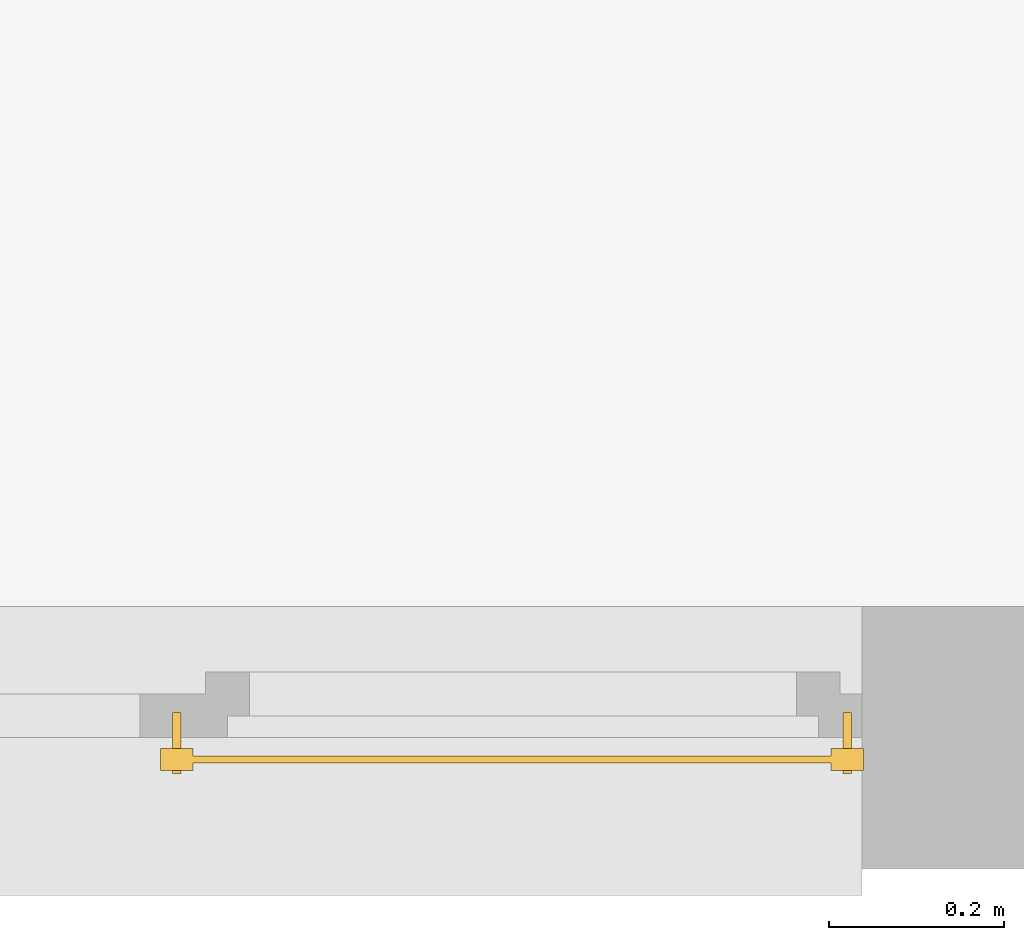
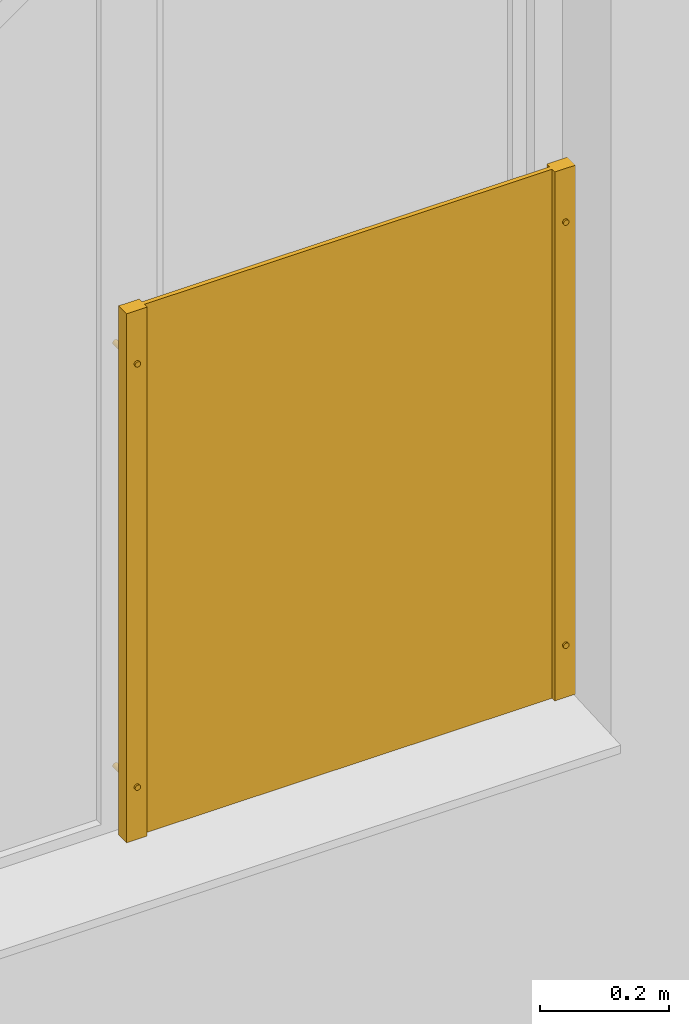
# One storey, part 3 of 8: 1 railing.
"""IFC2X3 building model written with IfcOpenShell, lengths in millimetres."""

from ifc_helpers import new_model, entity, si_unit, converted_unit, derived_unit, money_unit, direction, frame, origin_with_axes, place, context, subcontext, project, spatial, faceted_brep, material, material_list, type_object, element, save


model = new_model("IFC2X3")

# Units and contexts
model_context = context("Model", 3, precision=1e-05, world=origin_with_axes(), true_north=direction((0.0, 1.0)))
body_context = subcontext(model_context, "Body", "Model", "MODEL_VIEW")
ifc_project = project(units=[si_unit("LENGTHUNIT", "METRE", prefix="MILLI"), si_unit("AREAUNIT", "SQUARE_METRE"), si_unit("VOLUMEUNIT", "CUBIC_METRE"), converted_unit("PLANEANGLEUNIT", "DEGREE", entity("IfcPlaneAngleMeasure", 0.0174532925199), si_unit("PLANEANGLEUNIT", "RADIAN"), dimensions=[0, 0, 0, 0, 0, 0, 0]), si_unit("SOLIDANGLEUNIT", "STERADIAN"), money_unit("USD"), converted_unit("TIMEUNIT", "Year", entity("IfcTimeMeasure", 31556926.0), si_unit("TIMEUNIT", "SECOND"), dimensions=[0, 0, 1, 0, 0, 0, 0]), si_unit("MASSUNIT", "GRAM", prefix="KILO"), si_unit("THERMODYNAMICTEMPERATUREUNIT", "DEGREE_CELSIUS"), si_unit("LUMINOUSINTENSITYUNIT", "LUMEN"), si_unit("ENERGYUNIT", "JOULE", prefix="MEGA"), derived_unit("THERMALCONDUCTANCEUNIT", [(si_unit("POWERUNIT", "WATT"), 1), (si_unit("LENGTHUNIT", "METRE"), -1), (si_unit("THERMODYNAMICTEMPERATUREUNIT", "KELVIN"), -1)]), derived_unit("SPECIFICHEATCAPACITYUNIT", [(si_unit("ENERGYUNIT", "JOULE"), 1), (si_unit("MASSUNIT", "GRAM", prefix="KILO"), -1), (si_unit("THERMODYNAMICTEMPERATUREUNIT", "KELVIN"), -1)]), derived_unit("MASSDENSITYUNIT", [(si_unit("MASSUNIT", "GRAM", prefix="KILO"), 1), (si_unit("VOLUMEUNIT", "CUBIC_METRE"), -1)])], contexts=[model_context])

# Site, building, storey
site_placement = place(None, origin_with_axes())
site = spatial("IfcSite", under=ifc_project, at=site_placement, Name="Site", CompositionType="ELEMENT")
building_placement = place(site_placement, origin_with_axes())
building = spatial("IfcBuilding", under=site, at=building_placement, Name="Building", CompositionType="ELEMENT")
storey_placement = place(building_placement, origin_with_axes())
storey = spatial("IfcBuildingStorey", under=building, at=storey_placement, Name="Ground Floor", CompositionType="ELEMENT", Elevation=0.0)

# Railing
ifc_material_1 = material(Name="Steel - Structural")
ifc_material_2 = material(Name="Aluminium")
ifc_material_list = material_list([ifc_material_1, ifc_material_1, ifc_material_2, ifc_material_2, ifc_material_2, ifc_material_2, ifc_material_2])
railing_type = type_object("IfcRailingType", Name="Railing Type", PredefinedType="NOTDEFINED")
railing_placement = place(storey_placement, frame((-25961.9113682, 1857.32727174, 530.0), z_axis=(0.0, 0.0, 1.0), x_axis=(0.0, 1.0, 0.0)))
element("IfcRailing", 1, at=railing_placement, inside=storey, type_object=railing_type, material=ifc_material_list, Name="F-Line GOTLAND 1,0m", PredefinedType="NOTDEFINED", context=body_context, shape_type="Brep", body=[
    faceted_brep([(-12.5, 35.5, 0.0), (-37.5, 35.5, 0.0), (-37.5, 35.5, 1000.0), (-12.5, 35.5, 1000.0), (-12.5, -1.5, 0.0), (-37.5, -1.5, 0.0), (-37.5, -1.5, 1000.0), (-12.5, -1.5, 1000.0)], [[[0, 1, 2, 3]], [[0, 4, 5, 1]], [[1, 5, 6, 2]], [[3, 2, 6, 7]], [[4, 0, 3, 7]], [[5, 4, 7, 6]]]),
    faceted_brep([(-12.5, 801.5, 0.0), (-37.5, 801.5, 0.0), (-37.5, 801.5, 1000.0), (-12.5, 801.5, 1000.0), (-12.5, 764.5, 0.0), (-37.5, 764.5, 0.0), (-37.5, 764.5, 1000.0), (-12.5, 764.5, 1000.0)], [[[0, 1, 2, 3]], [[0, 4, 5, 1]], [[1, 5, 6, 2]], [[3, 2, 6, 7]], [[4, 0, 3, 7]], [[5, 4, 7, 6]]]),
    faceted_brep([(-29.0, 783.0, 0.0), (-29.0, 17.0, 0.0), (-29.0, 17.0, 1000.0), (-29.0, 783.0, 1000.0), (-21.0, 17.0, 0.0), (-21.0, 783.0, 0.0), (-21.0, 17.0, 1000.0), (-21.0, 783.0, 1000.0)], [[[0, 1, 2, 3]], [[4, 1, 0, 5]], [[6, 2, 1, 4]], [[3, 2, 6, 7]], [[0, 3, 7, 5]], [[6, 4, 5, 7]]]),
    faceted_brep([(-41.0, 21.9240387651, 100.868240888), (29.0, 21.9240387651, 100.868240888), (29.0, 21.9240387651, 99.1317591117), (-41.0, 21.9240387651, 99.1317591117), (-41.0, 21.6984631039, 101.710100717), (29.0, 21.6984631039, 101.710100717), (29.0, 21.3301270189, 102.5), (29.0, 20.8302222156, 103.213938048), (29.0, 20.2139380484, 103.830222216), (29.0, 19.5, 104.330127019), (29.0, 18.7101007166, 104.698463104), (29.0, 17.8682408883, 104.924038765), (29.0, 17.0, 105.0), (29.0, 16.1317591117, 104.924038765), (29.0, 15.2898992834, 104.698463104), (29.0, 14.5, 104.330127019), (29.0, 13.7860619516, 103.830222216), (29.0, 13.1697777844, 103.213938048), (29.0, 12.6698729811, 102.5), (29.0, 12.3015368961, 101.710100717), (29.0, 12.0759612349, 100.868240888), (29.0, 12.0, 100.0), (29.0, 12.0759612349, 99.1317591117), (29.0, 12.3015368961, 98.2898992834), (29.0, 12.6698729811, 97.5), (29.0, 13.1697777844, 96.7860619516), (29.0, 13.7860619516, 96.1697777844), (29.0, 14.5, 95.6698729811), (29.0, 15.2898992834, 95.3015368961), (29.0, 16.1317591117, 95.0759612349), (29.0, 17.0, 95.0), (29.0, 17.8682408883, 95.0759612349), (29.0, 18.7101007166, 95.3015368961), (29.0, 19.5, 95.6698729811), (29.0, 20.2139380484, 96.1697777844), (29.0, 20.8302222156, 96.7860619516), (29.0, 21.3301270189, 97.5), (29.0, 21.6984631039, 98.2898992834), (-41.0, 21.6984631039, 98.2898992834), (-41.0, 21.3301270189, 97.5), (-41.0, 20.8302222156, 96.7860619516), (-41.0, 20.2139380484, 96.1697777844), (-41.0, 19.5, 95.6698729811), (-41.0, 18.7101007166, 95.3015368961), (-41.0, 17.8682408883, 95.0759612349), (-41.0, 17.0, 95.0), (-41.0, 16.1317591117, 95.0759612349), (-41.0, 15.2898992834, 95.3015368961), (-41.0, 14.5, 95.6698729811), (-41.0, 13.7860619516, 96.1697777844), (-41.0, 13.1697777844, 96.7860619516), (-41.0, 12.6698729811, 97.5), (-41.0, 12.3015368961, 98.2898992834), (-41.0, 12.0759612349, 99.1317591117), (-41.0, 12.0, 100.0), (-41.0, 12.0759612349, 100.868240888), (-41.0, 12.3015368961, 101.710100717), (-41.0, 12.6698729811, 102.5), (-41.0, 13.1697777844, 103.213938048), (-41.0, 13.7860619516, 103.830222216), (-41.0, 14.5, 104.330127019), (-41.0, 15.2898992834, 104.698463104), (-41.0, 16.1317591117, 104.924038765), (-41.0, 17.0, 105.0), (-41.0, 17.8682408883, 104.924038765), (-41.0, 18.7101007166, 104.698463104), (-41.0, 19.5, 104.330127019), (-41.0, 20.2139380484, 103.830222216), (-41.0, 20.8302222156, 103.213938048), (-41.0, 21.3301270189, 102.5)], [[[0, 1, 2, 3]], [[4, 5, 1, 0]], [[1, 5, 6, 7, 8, 9, 10, 11, 12, 13, 14, 15, 16, 17, 18, 19, 20, 21, 22, 23, 24, 25, 26, 27, 28, 29, 30, 31, 32, 33, 34, 35, 36, 37, 2]], [[3, 2, 37, 38]], [[0, 3, 38, 39, 40, 41, 42, 43, 44, 45, 46, 47, 48, 49, 50, 51, 52, 53, 54, 55, 56, 57, 58, 59, 60, 61, 62, 63, 64, 65, 66, 67, 68, 69, 4]], [[69, 6, 5, 4]], [[68, 7, 6, 69]], [[67, 8, 7, 68]], [[66, 9, 8, 67]], [[65, 10, 9, 66]], [[64, 11, 10, 65]], [[63, 12, 11, 64]], [[62, 13, 12, 63]], [[61, 14, 13, 62]], [[60, 15, 14, 61]], [[59, 16, 15, 60]], [[58, 17, 16, 59]], [[57, 18, 17, 58]], [[56, 19, 18, 57]], [[55, 20, 19, 56]], [[54, 21, 20, 55]], [[53, 22, 21, 54]], [[52, 23, 22, 53]], [[51, 24, 23, 52]], [[50, 25, 24, 51]], [[49, 26, 25, 50]], [[48, 27, 26, 49]], [[47, 28, 27, 48]], [[46, 29, 28, 47]], [[45, 30, 29, 46]], [[44, 31, 30, 45]], [[43, 32, 31, 44]], [[42, 33, 32, 43]], [[41, 34, 33, 42]], [[40, 35, 34, 41]], [[39, 36, 35, 40]], [[38, 37, 36, 39]]]),
    faceted_brep([(-41.0, 21.9240387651, 900.868240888), (29.0, 21.9240387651, 900.868240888), (29.0, 21.9240387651, 899.131759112), (-41.0, 21.9240387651, 899.131759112), (-41.0, 21.6984631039, 901.710100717), (29.0, 21.6984631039, 901.710100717), (29.0, 21.3301270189, 902.5), (29.0, 20.8302222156, 903.213938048), (29.0, 20.2139380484, 903.830222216), (29.0, 19.5, 904.330127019), (29.0, 18.7101007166, 904.698463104), (29.0, 17.8682408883, 904.924038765), (29.0, 17.0, 905.0), (29.0, 16.1317591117, 904.924038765), (29.0, 15.2898992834, 904.698463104), (29.0, 14.5, 904.330127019), (29.0, 13.7860619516, 903.830222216), (29.0, 13.1697777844, 903.213938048), (29.0, 12.6698729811, 902.5), (29.0, 12.3015368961, 901.710100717), (29.0, 12.0759612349, 900.868240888), (29.0, 12.0, 900.0), (29.0, 12.0759612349, 899.131759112), (29.0, 12.3015368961, 898.289899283), (29.0, 12.6698729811, 897.5), (29.0, 13.1697777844, 896.786061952), (29.0, 13.7860619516, 896.169777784), (29.0, 14.5, 895.669872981), (29.0, 15.2898992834, 895.301536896), (29.0, 16.1317591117, 895.075961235), (29.0, 17.0, 895.0), (29.0, 17.8682408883, 895.075961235), (29.0, 18.7101007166, 895.301536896), (29.0, 19.5, 895.669872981), (29.0, 20.2139380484, 896.169777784), (29.0, 20.8302222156, 896.786061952), (29.0, 21.3301270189, 897.5), (29.0, 21.6984631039, 898.289899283), (-41.0, 21.6984631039, 898.289899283), (-41.0, 21.3301270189, 897.5), (-41.0, 20.8302222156, 896.786061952), (-41.0, 20.2139380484, 896.169777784), (-41.0, 19.5, 895.669872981), (-41.0, 18.7101007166, 895.301536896), (-41.0, 17.8682408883, 895.075961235), (-41.0, 17.0, 895.0), (-41.0, 16.1317591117, 895.075961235), (-41.0, 15.2898992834, 895.301536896), (-41.0, 14.5, 895.669872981), (-41.0, 13.7860619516, 896.169777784), (-41.0, 13.1697777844, 896.786061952), (-41.0, 12.6698729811, 897.5), (-41.0, 12.3015368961, 898.289899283), (-41.0, 12.0759612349, 899.131759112), (-41.0, 12.0, 900.0), (-41.0, 12.0759612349, 900.868240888), (-41.0, 12.3015368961, 901.710100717), (-41.0, 12.6698729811, 902.5), (-41.0, 13.1697777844, 903.213938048), (-41.0, 13.7860619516, 903.830222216), (-41.0, 14.5, 904.330127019), (-41.0, 15.2898992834, 904.698463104), (-41.0, 16.1317591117, 904.924038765), (-41.0, 17.0, 905.0), (-41.0, 17.8682408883, 904.924038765), (-41.0, 18.7101007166, 904.698463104), (-41.0, 19.5, 904.330127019), (-41.0, 20.2139380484, 903.830222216), (-41.0, 20.8302222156, 903.213938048), (-41.0, 21.3301270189, 902.5)], [[[0, 1, 2, 3]], [[4, 5, 1, 0]], [[1, 5, 6, 7, 8, 9, 10, 11, 12, 13, 14, 15, 16, 17, 18, 19, 20, 21, 22, 23, 24, 25, 26, 27, 28, 29, 30, 31, 32, 33, 34, 35, 36, 37, 2]], [[3, 2, 37, 38]], [[0, 3, 38, 39, 40, 41, 42, 43, 44, 45, 46, 47, 48, 49, 50, 51, 52, 53, 54, 55, 56, 57, 58, 59, 60, 61, 62, 63, 64, 65, 66, 67, 68, 69, 4]], [[69, 6, 5, 4]], [[68, 7, 6, 69]], [[67, 8, 7, 68]], [[66, 9, 8, 67]], [[65, 10, 9, 66]], [[64, 11, 10, 65]], [[63, 12, 11, 64]], [[62, 13, 12, 63]], [[61, 14, 13, 62]], [[60, 15, 14, 61]], [[59, 16, 15, 60]], [[58, 17, 16, 59]], [[57, 18, 17, 58]], [[56, 19, 18, 57]], [[55, 20, 19, 56]], [[54, 21, 20, 55]], [[53, 22, 21, 54]], [[52, 23, 22, 53]], [[51, 24, 23, 52]], [[50, 25, 24, 51]], [[49, 26, 25, 50]], [[48, 27, 26, 49]], [[47, 28, 27, 48]], [[46, 29, 28, 47]], [[45, 30, 29, 46]], [[44, 31, 30, 45]], [[43, 32, 31, 44]], [[42, 33, 32, 43]], [[41, 34, 33, 42]], [[40, 35, 34, 41]], [[39, 36, 35, 40]], [[38, 37, 36, 39]]]),
    faceted_brep([(-41.0, 787.924038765, 100.868240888), (29.0, 787.924038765, 100.868240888), (29.0, 787.924038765, 99.1317591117), (-41.0, 787.924038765, 99.1317591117), (-41.0, 787.698463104, 101.710100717), (29.0, 787.698463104, 101.710100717), (29.0, 787.330127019, 102.5), (29.0, 786.830222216, 103.213938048), (29.0, 786.213938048, 103.830222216), (29.0, 785.5, 104.330127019), (29.0, 784.710100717, 104.698463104), (29.0, 783.868240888, 104.924038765), (29.0, 783.0, 105.0), (29.0, 782.131759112, 104.924038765), (29.0, 781.289899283, 104.698463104), (29.0, 780.5, 104.330127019), (29.0, 779.786061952, 103.830222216), (29.0, 779.169777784, 103.213938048), (29.0, 778.669872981, 102.5), (29.0, 778.301536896, 101.710100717), (29.0, 778.075961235, 100.868240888), (29.0, 778.0, 100.0), (29.0, 778.075961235, 99.1317591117), (29.0, 778.301536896, 98.2898992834), (29.0, 778.669872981, 97.5), (29.0, 779.169777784, 96.7860619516), (29.0, 779.786061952, 96.1697777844), (29.0, 780.5, 95.6698729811), (29.0, 781.289899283, 95.3015368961), (29.0, 782.131759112, 95.0759612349), (29.0, 783.0, 95.0), (29.0, 783.868240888, 95.0759612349), (29.0, 784.710100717, 95.3015368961), (29.0, 785.5, 95.6698729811), (29.0, 786.213938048, 96.1697777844), (29.0, 786.830222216, 96.7860619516), (29.0, 787.330127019, 97.5), (29.0, 787.698463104, 98.2898992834), (-41.0, 787.698463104, 98.2898992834), (-41.0, 787.330127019, 97.5), (-41.0, 786.830222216, 96.7860619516), (-41.0, 786.213938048, 96.1697777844), (-41.0, 785.5, 95.6698729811), (-41.0, 784.710100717, 95.3015368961), (-41.0, 783.868240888, 95.0759612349), (-41.0, 783.0, 95.0), (-41.0, 782.131759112, 95.0759612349), (-41.0, 781.289899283, 95.3015368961), (-41.0, 780.5, 95.6698729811), (-41.0, 779.786061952, 96.1697777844), (-41.0, 779.169777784, 96.7860619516), (-41.0, 778.669872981, 97.5), (-41.0, 778.301536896, 98.2898992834), (-41.0, 778.075961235, 99.1317591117), (-41.0, 778.0, 100.0), (-41.0, 778.075961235, 100.868240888), (-41.0, 778.301536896, 101.710100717), (-41.0, 778.669872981, 102.5), (-41.0, 779.169777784, 103.213938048), (-41.0, 779.786061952, 103.830222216), (-41.0, 780.5, 104.330127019), (-41.0, 781.289899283, 104.698463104), (-41.0, 782.131759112, 104.924038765), (-41.0, 783.0, 105.0), (-41.0, 783.868240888, 104.924038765), (-41.0, 784.710100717, 104.698463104), (-41.0, 785.5, 104.330127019), (-41.0, 786.213938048, 103.830222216), (-41.0, 786.830222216, 103.213938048), (-41.0, 787.330127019, 102.5)], [[[0, 1, 2, 3]], [[4, 5, 1, 0]], [[1, 5, 6, 7, 8, 9, 10, 11, 12, 13, 14, 15, 16, 17, 18, 19, 20, 21, 22, 23, 24, 25, 26, 27, 28, 29, 30, 31, 32, 33, 34, 35, 36, 37, 2]], [[3, 2, 37, 38]], [[0, 3, 38, 39, 40, 41, 42, 43, 44, 45, 46, 47, 48, 49, 50, 51, 52, 53, 54, 55, 56, 57, 58, 59, 60, 61, 62, 63, 64, 65, 66, 67, 68, 69, 4]], [[69, 6, 5, 4]], [[68, 7, 6, 69]], [[67, 8, 7, 68]], [[66, 9, 8, 67]], [[65, 10, 9, 66]], [[64, 11, 10, 65]], [[63, 12, 11, 64]], [[62, 13, 12, 63]], [[61, 14, 13, 62]], [[60, 15, 14, 61]], [[59, 16, 15, 60]], [[58, 17, 16, 59]], [[57, 18, 17, 58]], [[56, 19, 18, 57]], [[55, 20, 19, 56]], [[54, 21, 20, 55]], [[53, 22, 21, 54]], [[52, 23, 22, 53]], [[51, 24, 23, 52]], [[50, 25, 24, 51]], [[49, 26, 25, 50]], [[48, 27, 26, 49]], [[47, 28, 27, 48]], [[46, 29, 28, 47]], [[45, 30, 29, 46]], [[44, 31, 30, 45]], [[43, 32, 31, 44]], [[42, 33, 32, 43]], [[41, 34, 33, 42]], [[40, 35, 34, 41]], [[39, 36, 35, 40]], [[38, 37, 36, 39]]]),
    faceted_brep([(-41.0, 787.924038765, 900.868240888), (29.0, 787.924038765, 900.868240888), (29.0, 787.924038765, 899.131759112), (-41.0, 787.924038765, 899.131759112), (-41.0, 787.698463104, 901.710100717), (29.0, 787.698463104, 901.710100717), (29.0, 787.330127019, 902.5), (29.0, 786.830222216, 903.213938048), (29.0, 786.213938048, 903.830222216), (29.0, 785.5, 904.330127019), (29.0, 784.710100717, 904.698463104), (29.0, 783.868240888, 904.924038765), (29.0, 783.0, 905.0), (29.0, 782.131759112, 904.924038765), (29.0, 781.289899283, 904.698463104), (29.0, 780.5, 904.330127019), (29.0, 779.786061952, 903.830222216), (29.0, 779.169777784, 903.213938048), (29.0, 778.669872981, 902.5), (29.0, 778.301536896, 901.710100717), (29.0, 778.075961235, 900.868240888), (29.0, 778.0, 900.0), (29.0, 778.075961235, 899.131759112), (29.0, 778.301536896, 898.289899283), (29.0, 778.669872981, 897.5), (29.0, 779.169777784, 896.786061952), (29.0, 779.786061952, 896.169777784), (29.0, 780.5, 895.669872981), (29.0, 781.289899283, 895.301536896), (29.0, 782.131759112, 895.075961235), (29.0, 783.0, 895.0), (29.0, 783.868240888, 895.075961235), (29.0, 784.710100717, 895.301536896), (29.0, 785.5, 895.669872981), (29.0, 786.213938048, 896.169777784), (29.0, 786.830222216, 896.786061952), (29.0, 787.330127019, 897.5), (29.0, 787.698463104, 898.289899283), (-41.0, 787.698463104, 898.289899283), (-41.0, 787.330127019, 897.5), (-41.0, 786.830222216, 896.786061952), (-41.0, 786.213938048, 896.169777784), (-41.0, 785.5, 895.669872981), (-41.0, 784.710100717, 895.301536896), (-41.0, 783.868240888, 895.075961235), (-41.0, 783.0, 895.0), (-41.0, 782.131759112, 895.075961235), (-41.0, 781.289899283, 895.301536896), (-41.0, 780.5, 895.669872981), (-41.0, 779.786061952, 896.169777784), (-41.0, 779.169777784, 896.786061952), (-41.0, 778.669872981, 897.5), (-41.0, 778.301536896, 898.289899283), (-41.0, 778.075961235, 899.131759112), (-41.0, 778.0, 900.0), (-41.0, 778.075961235, 900.868240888), (-41.0, 778.301536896, 901.710100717), (-41.0, 778.669872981, 902.5), (-41.0, 779.169777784, 903.213938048), (-41.0, 779.786061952, 903.830222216), (-41.0, 780.5, 904.330127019), (-41.0, 781.289899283, 904.698463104), (-41.0, 782.131759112, 904.924038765), (-41.0, 783.0, 905.0), (-41.0, 783.868240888, 904.924038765), (-41.0, 784.710100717, 904.698463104), (-41.0, 785.5, 904.330127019), (-41.0, 786.213938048, 903.830222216), (-41.0, 786.830222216, 903.213938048), (-41.0, 787.330127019, 902.5)], [[[0, 1, 2, 3]], [[4, 5, 1, 0]], [[1, 5, 6, 7, 8, 9, 10, 11, 12, 13, 14, 15, 16, 17, 18, 19, 20, 21, 22, 23, 24, 25, 26, 27, 28, 29, 30, 31, 32, 33, 34, 35, 36, 37, 2]], [[3, 2, 37, 38]], [[0, 3, 38, 39, 40, 41, 42, 43, 44, 45, 46, 47, 48, 49, 50, 51, 52, 53, 54, 55, 56, 57, 58, 59, 60, 61, 62, 63, 64, 65, 66, 67, 68, 69, 4]], [[69, 6, 5, 4]], [[68, 7, 6, 69]], [[67, 8, 7, 68]], [[66, 9, 8, 67]], [[65, 10, 9, 66]], [[64, 11, 10, 65]], [[63, 12, 11, 64]], [[62, 13, 12, 63]], [[61, 14, 13, 62]], [[60, 15, 14, 61]], [[59, 16, 15, 60]], [[58, 17, 16, 59]], [[57, 18, 17, 58]], [[56, 19, 18, 57]], [[55, 20, 19, 56]], [[54, 21, 20, 55]], [[53, 22, 21, 54]], [[52, 23, 22, 53]], [[51, 24, 23, 52]], [[50, 25, 24, 51]], [[49, 26, 25, 50]], [[48, 27, 26, 49]], [[47, 28, 27, 48]], [[46, 29, 28, 47]], [[45, 30, 29, 46]], [[44, 31, 30, 45]], [[43, 32, 31, 44]], [[42, 33, 32, 43]], [[41, 34, 33, 42]], [[40, 35, 34, 41]], [[39, 36, 35, 40]], [[38, 37, 36, 39]]]),
])

save(model, "model.ifc")
